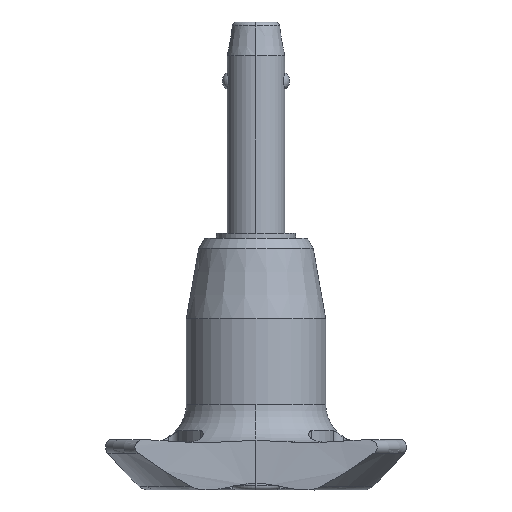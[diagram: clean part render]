
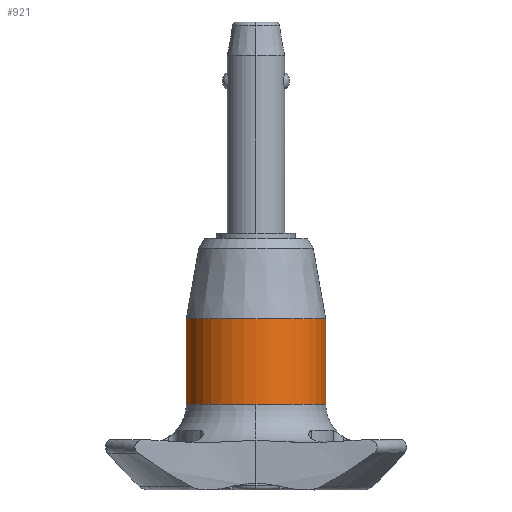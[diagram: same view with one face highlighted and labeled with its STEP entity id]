
A CAD part, left-side view. The second image highlights one B-rep face of the part: STEP entity #921.
In plain terms, the highlighted cylindrical face has radius 7.25 mm (diameter 14.5 mm), a partial arc.
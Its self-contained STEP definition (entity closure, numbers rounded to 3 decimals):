
#49 = CARTESIAN_POINT ( 'NONE',  ( 0., 0., -32.8 ) ) ;
#68 = AXIS2_PLACEMENT_3D ( 'NONE', #49, #696, #1312 ) ;
#70 = AXIS2_PLACEMENT_3D ( 'NONE', #1062, #1914, #1888 ) ;
#293 = EDGE_CURVE ( 'NONE', #2564, #498, #678, .T. ) ;
#322 = DIRECTION ( 'NONE',  ( 0., 0., -1. ) ) ;
#474 = CARTESIAN_POINT ( 'NONE',  ( 0., -7.25, -32.8 ) ) ;
#484 = ORIENTED_EDGE ( 'NONE', *, *, #735, .F. ) ;
#498 = VERTEX_POINT ( 'NONE', #2035 ) ;
#520 = ORIENTED_EDGE ( 'NONE', *, *, #1472, .F. ) ;
#678 = CIRCLE ( 'NONE', #2210, 7.25 ) ;
#689 = CARTESIAN_POINT ( 'NONE',  ( 0., -7.25, -32.8 ) ) ;
#696 = DIRECTION ( 'NONE',  ( 0., 0., -1. ) ) ;
#724 = CIRCLE ( 'NONE', #68, 7.25 ) ;
#735 = EDGE_CURVE ( 'NONE', #2313, #2564, #724, .T. ) ;
#758 = FACE_OUTER_BOUND ( 'NONE', #2433, .T. ) ;
#912 = LINE ( 'NONE', #2603, #941 ) ;
#921 = ADVANCED_FACE ( 'NONE', ( #758 ), #1558, .T. ) ;
#929 = ORIENTED_EDGE ( 'NONE', *, *, #954, .T. ) ;
#941 = VECTOR ( 'NONE', #1785, 1000. ) ;
#945 = AXIS2_PLACEMENT_3D ( 'NONE', #1799, #1769, #1978 ) ;
#954 = EDGE_CURVE ( 'NONE', #2609, #498, #912, .T. ) ;
#1062 = CARTESIAN_POINT ( 'NONE',  ( 0., 0., -23.9 ) ) ;
#1306 = ORIENTED_EDGE ( 'NONE', *, *, #293, .F. ) ;
#1312 = DIRECTION ( 'NONE',  ( 0., 1., 0. ) ) ;
#1472 = EDGE_CURVE ( 'NONE', #1586, #2313, #1603, .T. ) ;
#1558 = CYLINDRICAL_SURFACE ( 'NONE', #945, 7.25 ) ;
#1586 = VERTEX_POINT ( 'NONE', #2163 ) ;
#1603 = LINE ( 'NONE', #689, #2529 ) ;
#1754 = DIRECTION ( 'NONE',  ( 0., 1., 0. ) ) ;
#1769 = DIRECTION ( 'NONE',  ( 0., 0., -1. ) ) ;
#1785 = DIRECTION ( 'NONE',  ( 0., 0., -1. ) ) ;
#1789 = ORIENTED_EDGE ( 'NONE', *, *, #2582, .T. ) ;
#1799 = CARTESIAN_POINT ( 'NONE',  ( 0., 0., -32.8 ) ) ;
#1888 = DIRECTION ( 'NONE',  ( 0., 1., 0. ) ) ;
#1914 = DIRECTION ( 'NONE',  ( 0., 0., -1. ) ) ;
#1963 = CIRCLE ( 'NONE', #70, 7.25 ) ;
#1978 = DIRECTION ( 'NONE',  ( 0., 1., 0. ) ) ;
#1997 = CARTESIAN_POINT ( 'NONE',  ( 0., 0., -32.8 ) ) ;
#2035 = CARTESIAN_POINT ( 'NONE',  ( 0., 7.25, -32.8 ) ) ;
#2067 = CARTESIAN_POINT ( 'NONE',  ( -7.25, 0., -32.8 ) ) ;
#2078 = DIRECTION ( 'NONE',  ( 0., 0., -1. ) ) ;
#2163 = CARTESIAN_POINT ( 'NONE',  ( 0., -7.25, -23.9 ) ) ;
#2210 = AXIS2_PLACEMENT_3D ( 'NONE', #1997, #322, #1754 ) ;
#2313 = VERTEX_POINT ( 'NONE', #474 ) ;
#2433 = EDGE_LOOP ( 'NONE', ( #520, #1789, #929, #1306, #484 ) ) ;
#2529 = VECTOR ( 'NONE', #2078, 1000. ) ;
#2551 = CARTESIAN_POINT ( 'NONE',  ( 0., 7.25, -23.9 ) ) ;
#2564 = VERTEX_POINT ( 'NONE', #2067 ) ;
#2582 = EDGE_CURVE ( 'NONE', #1586, #2609, #1963, .T. ) ;
#2603 = CARTESIAN_POINT ( 'NONE',  ( 0., 7.25, -32.8 ) ) ;
#2609 = VERTEX_POINT ( 'NONE', #2551 ) ;
